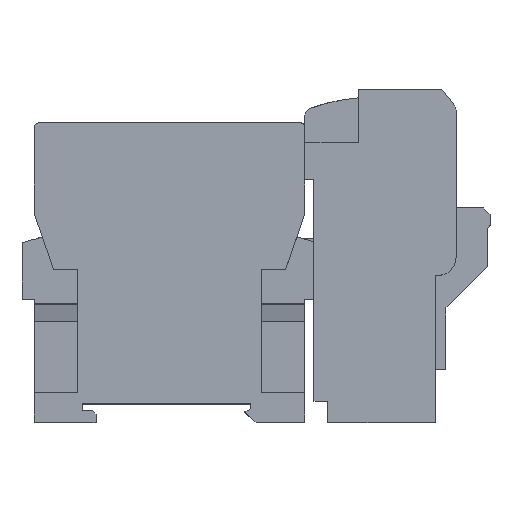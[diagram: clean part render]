
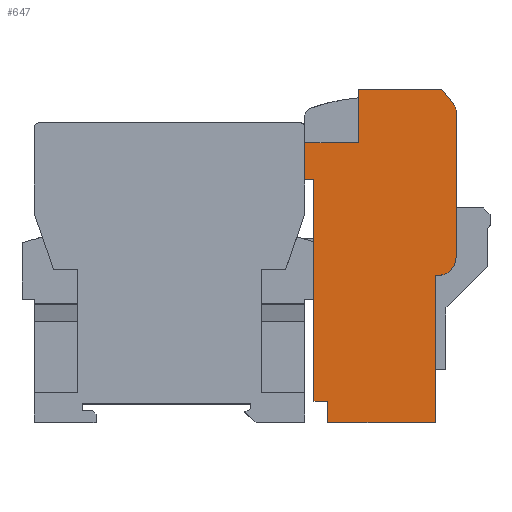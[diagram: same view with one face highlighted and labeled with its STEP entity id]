
A CAD part, top view. The second image highlights one B-rep face of the part: STEP entity #647.
In plain terms, the highlighted planar face has unit normal (0, 0, 1).
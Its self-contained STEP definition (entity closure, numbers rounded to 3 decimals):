
#8 = DIRECTION ( 'NONE',  ( -1., 0., 0. ) ) ;
#108 = VERTEX_POINT ( 'NONE', #9433 ) ;
#340 = LINE ( 'NONE', #11523, #8272 ) ;
#444 = VECTOR ( 'NONE', #4027, 1000. ) ;
#644 = VERTEX_POINT ( 'NONE', #5486 ) ;
#647 = ADVANCED_FACE ( 'NONE', ( #3710 ), #5451, .F. ) ;
#720 = VECTOR ( 'NONE', #3984, 1000. ) ;
#753 = VERTEX_POINT ( 'NONE', #4583 ) ;
#796 = ORIENTED_EDGE ( 'NONE', *, *, #11179, .F. ) ;
#880 = ORIENTED_EDGE ( 'NONE', *, *, #8780, .F. ) ;
#1023 = CARTESIAN_POINT ( 'NONE',  ( 31.5, 4.6, 22.5 ) ) ;
#1362 = VECTOR ( 'NONE', #12981, 1000. ) ;
#1369 = LINE ( 'NONE', #4924, #720 ) ;
#1514 = LINE ( 'NONE', #7875, #1362 ) ;
#1567 = VERTEX_POINT ( 'NONE', #6461 ) ;
#1572 = VERTEX_POINT ( 'NONE', #6429 ) ;
#1621 = EDGE_CURVE ( 'NONE', #644, #2055, #1369, .T. ) ;
#1796 = ORIENTED_EDGE ( 'NONE', *, *, #7379, .F. ) ;
#2055 = VERTEX_POINT ( 'NONE', #8553 ) ;
#2155 = EDGE_CURVE ( 'NONE', #4996, #3563, #5586, .T. ) ;
#2395 = CARTESIAN_POINT ( 'NONE',  ( 58.5, 36., 22.5 ) ) ;
#2435 = DIRECTION ( 'NONE',  ( 0., 1., 0. ) ) ;
#2443 = EDGE_CURVE ( 'NONE', #6117, #644, #4786, .T. ) ;
#2498 = CARTESIAN_POINT ( 'NONE',  ( 29.5, 36.585, 22.5 ) ) ;
#2709 = DIRECTION ( 'NONE',  ( -1., 0., 0. ) ) ;
#2877 = VECTOR ( 'NONE', #3796, 1000. ) ;
#2976 = CARTESIAN_POINT ( 'NONE',  ( 41.2, 36.585, 22.5 ) ) ;
#2978 = CARTESIAN_POINT ( 'NONE',  ( 46.214, 0., 22.5 ) ) ;
#2987 = VERTEX_POINT ( 'NONE', #3985 ) ;
#3100 = VECTOR ( 'NONE', #8302, 1000. ) ;
#3229 = LINE ( 'NONE', #7133, #5315 ) ;
#3320 = DIRECTION ( 'NONE',  ( 1., 0., 0. ) ) ;
#3447 = DIRECTION ( 'NONE',  ( -1., 0., 0. ) ) ;
#3561 = ORIENTED_EDGE ( 'NONE', *, *, #9910, .F. ) ;
#3563 = VERTEX_POINT ( 'NONE', #4409 ) ;
#3710 = FACE_OUTER_BOUND ( 'NONE', #13290, .T. ) ;
#3796 = DIRECTION ( 'NONE',  ( -1., 0., 0. ) ) ;
#3857 = ORIENTED_EDGE ( 'NONE', *, *, #9937, .F. ) ;
#3984 = DIRECTION ( 'NONE',  ( 0., 1., 0. ) ) ;
#3985 = CARTESIAN_POINT ( 'NONE',  ( 62.032, 69.355, 22.5 ) ) ;
#4027 = DIRECTION ( 'NONE',  ( 0., 1., 0. ) ) ;
#4046 = ORIENTED_EDGE ( 'NONE', *, *, #1621, .F. ) ;
#4409 = CARTESIAN_POINT ( 'NONE',  ( 62.5, 36., 22.5 ) ) ;
#4427 = CARTESIAN_POINT ( 'NONE',  ( 58., 32., 22.5 ) ) ;
#4583 = CARTESIAN_POINT ( 'NONE',  ( 58.5, 32., 22.5 ) ) ;
#4627 = EDGE_CURVE ( 'NONE', #753, #1567, #5512, .T. ) ;
#4705 = DIRECTION ( 'NONE',  ( -1., 0., 0. ) ) ;
#4721 = LINE ( 'NONE', #4767, #7446 ) ;
#4765 = ORIENTED_EDGE ( 'NONE', *, *, #2155, .F. ) ;
#4767 = CARTESIAN_POINT ( 'NONE',  ( 59.309, 72.6, 22.5 ) ) ;
#4772 = ORIENTED_EDGE ( 'NONE', *, *, #9120, .F. ) ;
#4786 = LINE ( 'NONE', #2978, #12333 ) ;
#4924 = CARTESIAN_POINT ( 'NONE',  ( 34.5, 36.585, 22.5 ) ) ;
#4996 = VERTEX_POINT ( 'NONE', #9941 ) ;
#5019 = VERTEX_POINT ( 'NONE', #9365 ) ;
#5315 = VECTOR ( 'NONE', #6079, 1000. ) ;
#5317 = DIRECTION ( 'NONE',  ( 0., 1., 0. ) ) ;
#5421 = DIRECTION ( 'NONE',  ( -1., 0., 0. ) ) ;
#5431 = DIRECTION ( 'NONE',  ( 0., 0., -1. ) ) ;
#5438 = CARTESIAN_POINT ( 'NONE',  ( 46.214, 36.585, 22.5 ) ) ;
#5451 = PLANE ( 'NONE',  #12135 ) ;
#5486 = CARTESIAN_POINT ( 'NONE',  ( 34.5, 0., 22.5 ) ) ;
#5512 = LINE ( 'NONE', #4427, #13359 ) ;
#5565 = ORIENTED_EDGE ( 'NONE', *, *, #11580, .F. ) ;
#5586 = LINE ( 'NONE', #6789, #10452 ) ;
#5611 = LINE ( 'NONE', #11039, #2877 ) ;
#5620 = ORIENTED_EDGE ( 'NONE', *, *, #4627, .F. ) ;
#5641 = LINE ( 'NONE', #2498, #10839 ) ;
#5697 = EDGE_CURVE ( 'NONE', #11610, #5019, #5641, .T. ) ;
#5845 = LINE ( 'NONE', #11413, #3100 ) ;
#6013 = VERTEX_POINT ( 'NONE', #10710 ) ;
#6079 = DIRECTION ( 'NONE',  ( 1., 0., 0. ) ) ;
#6117 = VERTEX_POINT ( 'NONE', #9322 ) ;
#6207 = DIRECTION ( 'NONE',  ( 0., 0., -1. ) ) ;
#6429 = CARTESIAN_POINT ( 'NONE',  ( 31.5, 53., 22.5 ) ) ;
#6461 = CARTESIAN_POINT ( 'NONE',  ( 58., 32., 22.5 ) ) ;
#6754 = CARTESIAN_POINT ( 'NONE',  ( 59.309, 72.6, 22.5 ) ) ;
#6789 = CARTESIAN_POINT ( 'NONE',  ( 62.5, 36.585, 22.5 ) ) ;
#6820 = DIRECTION ( 'NONE',  ( 0.643, -0.766, 0. ) ) ;
#6889 = VECTOR ( 'NONE', #3320, 1000. ) ;
#7133 = CARTESIAN_POINT ( 'NONE',  ( 46.214, 61., 22.5 ) ) ;
#7371 = DIRECTION ( 'NONE',  ( 0., -1., 0. ) ) ;
#7379 = EDGE_CURVE ( 'NONE', #7947, #1572, #340, .T. ) ;
#7446 = VECTOR ( 'NONE', #6820, 1000. ) ;
#7796 = ORIENTED_EDGE ( 'NONE', *, *, #2443, .F. ) ;
#7875 = CARTESIAN_POINT ( 'NONE',  ( 29.5, 53., 22.5 ) ) ;
#7947 = VERTEX_POINT ( 'NONE', #1023 ) ;
#7971 = CARTESIAN_POINT ( 'NONE',  ( 29.5, 53., 22.5 ) ) ;
#8272 = VECTOR ( 'NONE', #5317, 1000. ) ;
#8302 = DIRECTION ( 'NONE',  ( 0., -1., 0. ) ) ;
#8342 = CIRCLE ( 'NONE', #9303, 4. ) ;
#8531 = ORIENTED_EDGE ( 'NONE', *, *, #12962, .F. ) ;
#8553 = CARTESIAN_POINT ( 'NONE',  ( 34.5, 4.6, 22.5 ) ) ;
#8708 = LINE ( 'NONE', #2976, #444 ) ;
#8780 = EDGE_CURVE ( 'NONE', #1567, #6117, #5845, .T. ) ;
#9120 = EDGE_CURVE ( 'NONE', #11510, #2987, #4721, .T. ) ;
#9303 = AXIS2_PLACEMENT_3D ( 'NONE', #2395, #9631, #3447 ) ;
#9322 = CARTESIAN_POINT ( 'NONE',  ( 58., 0., 22.5 ) ) ;
#9365 = CARTESIAN_POINT ( 'NONE',  ( 29.5, 61., 22.5 ) ) ;
#9433 = CARTESIAN_POINT ( 'NONE',  ( 41.2, 72.6, 22.5 ) ) ;
#9631 = DIRECTION ( 'NONE',  ( 0., 0., -1. ) ) ;
#9655 = LINE ( 'NONE', #11545, #6889 ) ;
#9910 = EDGE_CURVE ( 'NONE', #6013, #108, #8708, .T. ) ;
#9937 = EDGE_CURVE ( 'NONE', #5019, #6013, #3229, .T. ) ;
#9941 = CARTESIAN_POINT ( 'NONE',  ( 62.5, 68.069, 22.5 ) ) ;
#10452 = VECTOR ( 'NONE', #7371, 1000. ) ;
#10536 = ORIENTED_EDGE ( 'NONE', *, *, #5697, .F. ) ;
#10710 = CARTESIAN_POINT ( 'NONE',  ( 41.2, 61., 22.5 ) ) ;
#10777 = EDGE_CURVE ( 'NONE', #3563, #753, #8342, .T. ) ;
#10839 = VECTOR ( 'NONE', #2435, 1000. ) ;
#11039 = CARTESIAN_POINT ( 'NONE',  ( 31.5, 4.6, 22.5 ) ) ;
#11112 = ORIENTED_EDGE ( 'NONE', *, *, #10777, .F. ) ;
#11149 = CIRCLE ( 'NONE', #13096, 2. ) ;
#11179 = EDGE_CURVE ( 'NONE', #2987, #4996, #11149, .T. ) ;
#11413 = CARTESIAN_POINT ( 'NONE',  ( 58., 36.585, 22.5 ) ) ;
#11510 = VERTEX_POINT ( 'NONE', #6754 ) ;
#11523 = CARTESIAN_POINT ( 'NONE',  ( 31.5, 53., 22.5 ) ) ;
#11545 = CARTESIAN_POINT ( 'NONE',  ( 46.214, 72.6, 22.5 ) ) ;
#11580 = EDGE_CURVE ( 'NONE', #2055, #7947, #5611, .T. ) ;
#11610 = VERTEX_POINT ( 'NONE', #7971 ) ;
#11874 = EDGE_CURVE ( 'NONE', #108, #11510, #9655, .T. ) ;
#12135 = AXIS2_PLACEMENT_3D ( 'NONE', #5438, #5431, #5421 ) ;
#12333 = VECTOR ( 'NONE', #2709, 1000. ) ;
#12382 = CARTESIAN_POINT ( 'NONE',  ( 60.5, 68.069, 22.5 ) ) ;
#12854 = ORIENTED_EDGE ( 'NONE', *, *, #11874, .F. ) ;
#12962 = EDGE_CURVE ( 'NONE', #1572, #11610, #1514, .T. ) ;
#12981 = DIRECTION ( 'NONE',  ( -1., 0., 0. ) ) ;
#13096 = AXIS2_PLACEMENT_3D ( 'NONE', #12382, #6207, #8 ) ;
#13290 = EDGE_LOOP ( 'NONE', ( #10536, #8531, #1796, #5565, #4046, #7796, #880, #5620, #11112, #4765, #796, #4772, #12854, #3561, #3857 ) ) ;
#13359 = VECTOR ( 'NONE', #4705, 1000. ) ;
